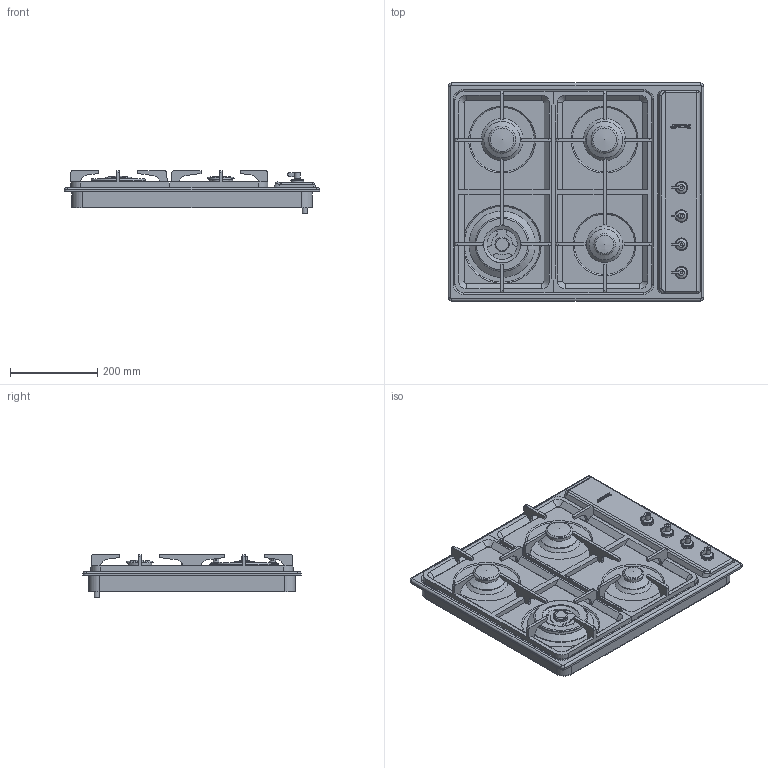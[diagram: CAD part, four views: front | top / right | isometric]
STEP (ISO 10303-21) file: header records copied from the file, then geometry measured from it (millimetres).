
FILE_DESCRIPTION(/* description */ (''),/* implementation_level */ '2;1');
FILE_NAME(/* name */ 'piano cir66xs3.stp',/* time_stamp */ '2019-03-06T16:05:49+01:00',/* author */ (''),/* organization */ (''),/* preprocessor_version */ 'ST-DEVELOPER v16',/* originating_system */ 'SIEMENS PLM Software NX 11.0',/* authorisation */ '');
FILE_SCHEMA (('AUTOMOTIVE_DESIGN { 1 0 10303 214 3 1 1 1 }'));
Length unit declared in the file: millimetre
Products named in the file (1): gobb15B86FC8xqlb
Bounding box: 585 x 500 x 98.47 mm (x, y, z)
Volume: 3312111.6 mm3; surface area: 1746921.3 mm2
Topology: 32 solids, 32 shells, 692 faces, 1681 edges, 1088 vertices
Faces by surface type: plane 407, cylinder 204, cone 30, torus 22, extrusion 13, bspline 8, sphere 8
Full cylindrical faces by diameter (mm): 3.988 x6, 6 x5, 8 x5, 10 x10, 12 x2, 13.5 x4, 21 x4, 23 x1, 23.5 x1, 27 x4, 28 x1, 29 x4, 32 x1, 42 x1, 43 x1, 55 x2, 56 x2, 70.5 x1, 79.5 x1, 83 x2, 85 x1, 89.5 x1, 90 x1, 98.5 x1, 106.5 x1, 111 x1, 113.5 x1, 122 x1, 124 x1, 152 x1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
Entity records: 20007 total; most frequent: CARTESIAN_POINT 3808, DIRECTION 3353, ORIENTED_EDGE 3072, EDGE_CURVE 1536, AXIS2_PLACEMENT_3D 1157, VERTEX_POINT 1060, VECTOR 1039, LINE 1026
